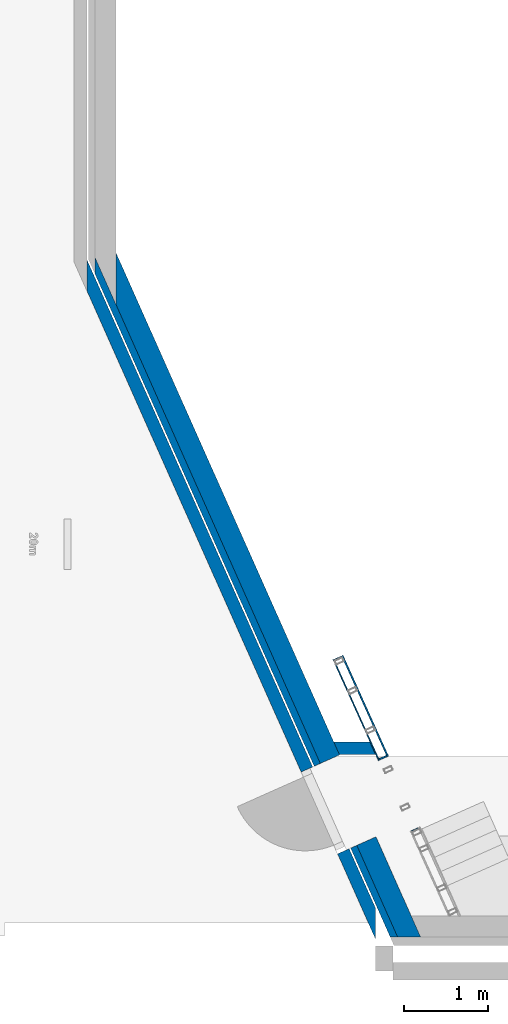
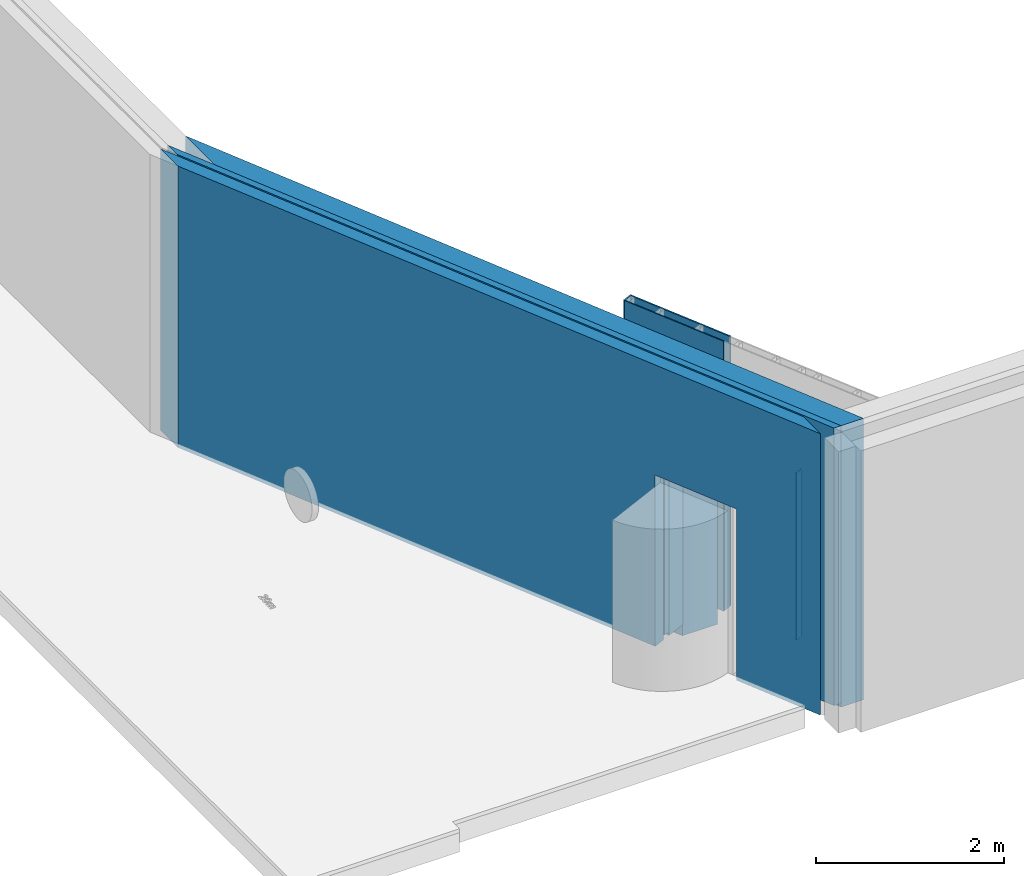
# One storey, part 6 of 16: 9 walls, 4 openings.
"""IFC2X3 building model written with IfcOpenShell, lengths in millimetres."""

import ifcopenshell
import ifcopenshell.guid

model = None  # the IFC model being written
_history = None  # IfcOwnerHistory: only IFC2X3 demands one
_inside = {}  # id of a spatial element -> (the spatial element, [elements in it])
_under = {}  # id of a project, library or spatial element -> (it, [spatial elements below it])
_declared = {}  # id of a project -> (the project, [libraries it declares])
_typed = {}  # id of a type object -> (the type object, [elements of that type])
_made_of = {}  # id of a material, layer set ... -> (it, [elements and type objects made of it])


def new_model(schema):
    """Start an empty IFC model of exactly this schema.

    Asked for "IFC4X3", IfcOpenShell would pick the latest addendum, in which some entities
    have other attributes; the version numbers below select the first issue.
    IFC2X3 requires an IfcOwnerHistory on every rooted entity: one is made here for all.
    """
    global model, _history
    if schema == "IFC4X3":
        model = ifcopenshell.file(schema_version=(4, 3, 0, 0))
    else:
        model = ifcopenshell.file(schema=schema)
    _inside.clear()
    _under.clear()
    _declared.clear()
    _typed.clear()
    _made_of.clear()
    _history = None
    if model.schema == "IFC2X3":
        org = make("IfcOrganization", Name="unknown")
        user = make(
            "IfcPersonAndOrganization",
            ThePerson=make("IfcPerson", FamilyName="unknown"),
            TheOrganization=org,
        )
        app = make(
            "IfcApplication",
            ApplicationDeveloper=org,
            Version="unknown",
            ApplicationFullName="unknown",
            ApplicationIdentifier="unknown",
        )
        _history = make(
            "IfcOwnerHistory",
            OwningUser=user,
            OwningApplication=app,
            ChangeAction="ADDED",
            CreationDate=0,
        )
    return model


def make(cls, **values):
    """One entity of the class cls with the attributes given. An attribute that is None is left unset."""
    return model.create_entity(
        cls, **{name: value for name, value in values.items() if value is not None}
    )


def entity(cls, *values):
    """Any entity or typed value of the class cls, its attributes in the order of the schema. None: left unset."""
    e = model.create_entity(cls)
    for i, value in enumerate(values):
        if value is not None:
            e[i] = value
    return e


def rooted(cls, **values):
    """An entity with a GlobalId (a new one), such as an element, a storey or a relation."""
    return make(cls, GlobalId=ifcopenshell.guid.new(), OwnerHistory=_history, **values)


def si_unit(unit_type, name, prefix=None):
    """IfcSIUnit, for example si_unit("LENGTHUNIT", "METRE", prefix="MILLI")."""
    return make("IfcSIUnit", UnitType=unit_type, Prefix=prefix, Name=name)


def converted_unit(unit_type, name, factor, base, dimensions=None, offset=None):
    """IfcConversionBasedUnit, such as the inch: factor (a typed value) times the base unit."""
    return make(
        "IfcConversionBasedUnit"
        if offset is None
        else "IfcConversionBasedUnitWithOffset",
        ConversionOffset=offset,
        Dimensions=None
        if dimensions is None
        else entity("IfcDimensionalExponents", *dimensions),
        UnitType=unit_type,
        Name=name,
        ConversionFactor=make(
            "IfcMeasureWithUnit", ValueComponent=factor, UnitComponent=base
        ),
    )


def derived_unit(unit_type, elements):
    """IfcDerivedUnit: a product of units, each with its exponent."""
    return make(
        "IfcDerivedUnit",
        Elements=[
            make("IfcDerivedUnitElement", Unit=unit, Exponent=power)
            for unit, power in elements
        ],
        UnitType=unit_type,
    )


def assignment(units):
    """IfcUnitAssignment: the units of a project."""
    return None if units is None else make("IfcUnitAssignment", Units=units)


def point(xyz):
    """IfcCartesianPoint."""
    return None if xyz is None else make("IfcCartesianPoint", Coordinates=xyz)


def direction(xyz):
    """IfcDirection."""
    return None if xyz is None else make("IfcDirection", DirectionRatios=xyz)


def frame(location, z_axis=None, x_axis=None):
    """IfcAxis2Placement3D, a coordinate frame: its origin and axes. An axis left out is left unset."""
    return make(
        "IfcAxis2Placement3D",
        Location=point(location),
        Axis=direction(z_axis),
        RefDirection=direction(x_axis),
    )


def frame_2d(location, x_axis=None):
    """IfcAxis2Placement2D, a coordinate frame in the plane: its origin and x axis."""
    return make(
        "IfcAxis2Placement2D", Location=point(location), RefDirection=direction(x_axis)
    )


def origin():
    """The frame at (0, 0, 0) with its axes left unset."""
    return frame((0.0, 0.0, 0.0))


def place(relative_to, where):
    """IfcLocalPlacement: puts the frame where relative to a parent placement (None: the world)."""
    return make(
        "IfcLocalPlacement", PlacementRelTo=relative_to, RelativePlacement=where
    )


def context(
    kind, dimensions, precision=None, world=None, true_north=None, identifier=None
):
    """IfcGeometricRepresentationContext, for example the 3D "Model" context."""
    return make(
        "IfcGeometricRepresentationContext",
        ContextIdentifier=identifier,
        ContextType=kind,
        CoordinateSpaceDimension=dimensions,
        Precision=precision,
        WorldCoordinateSystem=world,
        TrueNorth=true_north,
    )


def subcontext(parent, identifier, kind, view, scale=None):
    """IfcGeometricRepresentationSubContext, for example "Body" below "Model"."""
    return make(
        "IfcGeometricRepresentationSubContext",
        ContextIdentifier=identifier,
        ContextType=kind,
        ParentContext=parent,
        TargetScale=scale,
        TargetView=view,
    )


def project(units=None, contexts=None):
    """IfcProject with its units and contexts."""
    return rooted(
        "IfcProject",
        Name="project",
        RepresentationContexts=contexts,
        UnitsInContext=assignment(units),
    )


def spatial(cls, under=None, at=None, **own):
    """A site, building, storey or space (cls), placed at a placement, below another one or the project."""
    s = rooted(cls, ObjectPlacement=at, **own)
    if under is not None:
        _under.setdefault(under.id(), (under, []))[1].append(s)
    return s


def polyline(points):
    """IfcPolyline through the points."""
    return make("IfcPolyline", Points=[point(p) for p in points])


def profile(cls, at=None, kind="AREA", **sizes):
    """A parametric profile (cls). Its sizes go by their IFC names, for example OverallWidth=200.0."""
    return make(cls, ProfileType=kind, Position=at, **sizes)


def rectangle(**sizes):
    """IfcRectangleProfileDef."""
    return profile("IfcRectangleProfileDef", **sizes)


def outline(outer, holes=None, kind="AREA"):
    """IfcArbitraryClosedProfileDef: a profile drawn as a closed curve; with holes, ...WithVoids."""
    if holes is None:
        return make("IfcArbitraryClosedProfileDef", ProfileType=kind, OuterCurve=outer)
    return make(
        "IfcArbitraryProfileDefWithVoids",
        ProfileType=kind,
        OuterCurve=outer,
        InnerCurves=holes,
    )


def extrude(swept, where, along, depth):
    """IfcExtrudedAreaSolid: the profile swept, set in the frame where, extruded along a direction by depth."""
    return make(
        "IfcExtrudedAreaSolid",
        SweptArea=swept,
        Position=where,
        ExtrudedDirection=direction(along),
        Depth=depth,
    )


def clip(a, b, op="DIFFERENCE"):
    """IfcBooleanClippingResult: the solid a cut by the half space b."""
    return make(
        "IfcBooleanClippingResult", Operator=op, FirstOperand=a, SecondOperand=b
    )


def halfspace(plane, agree):
    """IfcHalfSpaceSolid: all space on one side of the plane z = 0 of the frame plane."""
    return make(
        "IfcHalfSpaceSolid",
        BaseSurface=make("IfcPlane", Position=plane),
        AgreementFlag=agree,
    )


def shape(context_of_items, identifier, shape_type, items):
    """IfcShapeRepresentation: the items that make up one representation, for example the "Body"."""
    return make(
        "IfcShapeRepresentation",
        ContextOfItems=context_of_items,
        RepresentationIdentifier=identifier,
        RepresentationType=shape_type,
        Items=items,
    )


def material(Name=None, Category=None):
    """IfcMaterial."""
    return make("IfcMaterial", Name=Name, Category=Category)


def layer(
    of_material, thickness, ventilated=None, Name=None, Category=None, Priority=None
):
    """IfcMaterialLayer: one layer of a wall or slab, of a material (None: an air gap)."""
    return make(
        "IfcMaterialLayer",
        Material=of_material,
        LayerThickness=thickness,
        IsVentilated=ventilated,
        Name=Name,
        Category=Category,
        Priority=Priority,
    )


def layer_set(layers, Name=None):
    """IfcMaterialLayerSet."""
    return make("IfcMaterialLayerSet", MaterialLayers=layers, LayerSetName=Name)


def layer_usage(for_layer_set, set_direction, sense, offset, extent=None):
    """IfcMaterialLayerSetUsage: how a layer set lies in its element."""
    return make(
        "IfcMaterialLayerSetUsage",
        ForLayerSet=for_layer_set,
        LayerSetDirection=set_direction,
        DirectionSense=sense,
        OffsetFromReferenceLine=offset,
        ReferenceExtent=extent,
    )


def made_of(thing, what):
    """Note that an element or type object is made of a material, layer set ...; save() writes the relation."""
    if what is not None:
        _made_of.setdefault(what.id(), (what, []))[1].append(thing)
    return thing


def type_object(cls, material=None, **own):
    """A type object (cls), such as IfcWallType, which elements share."""
    return made_of(rooted(cls, **own), material)


def element(
    cls,
    number,
    at=None,
    inside=None,
    cuts=None,
    type_object=None,
    material=None,
    context=None,
    identifier="Body",
    shape_type=None,
    held_by="IfcProductDefinitionShape",
    body=None,
    shapes=None,
    **own,
):
    """One element of the class cls, such as IfcWall. Its Tag is "e" and its number.

    at: its placement. inside: the storey or other place that contains it. cuts: it is an
    opening in that element (IfcRelVoidsElement). A single representation is given by context,
    identifier, shape_type and body (its items); several are given by shapes. held_by: the class
    of the entity that holds the representations. save() writes the other relations.
    """
    e = rooted(cls, Tag="e%d" % number, ObjectPlacement=at, **own)
    if body is not None:
        shapes = [shape(context, identifier, shape_type, body)]
    if shapes is not None:
        e.Representation = make(held_by, Representations=shapes)
    if inside is not None:
        _inside.setdefault(inside.id(), (inside, []))[1].append(e)
    if cuts is not None:
        rooted(
            "IfcRelVoidsElement", RelatingBuildingElement=cuts, RelatedOpeningElement=e
        )
    if type_object is not None:
        _typed.setdefault(type_object.id(), (type_object, []))[1].append(e)
    return made_of(e, material)


def aggregate(whole, parts):
    """IfcRelAggregates: a whole, such as a stair, and the parts it consists of."""
    return rooted("IfcRelAggregates", RelatingObject=whole, RelatedObjects=parts)


def save(model, path):
    """Write the relations noted so far, then the file.

    IfcRelAggregates (storeys below a building ...), IfcRelContainedInSpatialStructure (elements
    in a storey), IfcRelDefinesByType, IfcRelAssociatesMaterial and IfcRelDeclares: one each for
    every whole, place, type object, material and project.
    """
    for whole, parts in _under.values():
        aggregate(whole, parts)
    for where, things in _inside.values():
        rooted(
            "IfcRelContainedInSpatialStructure",
            RelatedElements=things,
            RelatingStructure=where,
        )
    for kind, things in _typed.values():
        rooted("IfcRelDefinesByType", RelatedObjects=things, RelatingType=kind)
    for what, things in _made_of.values():
        rooted("IfcRelAssociatesMaterial", RelatedObjects=things, RelatingMaterial=what)
    for by, libraries in _declared.values():
        rooted("IfcRelDeclares", RelatingContext=by, RelatedDefinitions=libraries)
    model.write(path)


model = new_model("IFC2X3")

# Units and contexts
model_context = context("Model", 3, precision=0.01, world=origin(), true_north=direction((6.123031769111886e-17, 1.0)))
body_context = subcontext(model_context, "Body", "Model", "MODEL_VIEW")
ifc_project = project(units=[si_unit("LENGTHUNIT", "METRE", prefix="MILLI"), si_unit("AREAUNIT", "SQUARE_METRE"), si_unit("VOLUMEUNIT", "CUBIC_METRE"), converted_unit("PLANEANGLEUNIT", "DEGREE", entity("IfcRatioMeasure", 0.017453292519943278), si_unit("PLANEANGLEUNIT", "RADIAN"), dimensions=[0, 0, 0, 0, 0, 0, 0]), si_unit("MASSUNIT", "GRAM", prefix="KILO"), derived_unit("MASSDENSITYUNIT", [(si_unit("MASSUNIT", "GRAM", prefix="KILO"), 1), (si_unit("LENGTHUNIT", "METRE"), -3)]), derived_unit("MOMENTOFINERTIAUNIT", [(si_unit("LENGTHUNIT", "METRE"), 4)]), si_unit("TIMEUNIT", "SECOND"), si_unit("FREQUENCYUNIT", "HERTZ"), si_unit("THERMODYNAMICTEMPERATUREUNIT", "DEGREE_CELSIUS"), derived_unit("THERMALTRANSMITTANCEUNIT", [(si_unit("MASSUNIT", "GRAM", prefix="KILO"), 1), (si_unit("THERMODYNAMICTEMPERATUREUNIT", "KELVIN"), -1), (si_unit("TIMEUNIT", "SECOND"), -3)]), derived_unit("VOLUMETRICFLOWRATEUNIT", [(si_unit("LENGTHUNIT", "METRE"), 3), (si_unit("TIMEUNIT", "SECOND"), -1)]), derived_unit("MASSFLOWRATEUNIT", [(si_unit("MASSUNIT", "GRAM", prefix="KILO"), 1), (si_unit("TIMEUNIT", "SECOND"), -1)]), derived_unit("ROTATIONALFREQUENCYUNIT", [(si_unit("TIMEUNIT", "SECOND"), -1)]), si_unit("ELECTRICCURRENTUNIT", "AMPERE"), si_unit("ELECTRICVOLTAGEUNIT", "VOLT"), si_unit("POWERUNIT", "WATT"), si_unit("FORCEUNIT", "NEWTON", prefix="KILO"), si_unit("ILLUMINANCEUNIT", "LUX"), si_unit("LUMINOUSFLUXUNIT", "LUMEN"), si_unit("LUMINOUSINTENSITYUNIT", "CANDELA"), derived_unit("USERDEFINED", [(si_unit("MASSUNIT", "GRAM", prefix="KILO"), -1), (si_unit("LENGTHUNIT", "METRE"), -2), (si_unit("TIMEUNIT", "SECOND"), 3), (si_unit("LUMINOUSFLUXUNIT", "LUMEN"), 1)]), derived_unit("SOUNDPOWERUNIT", [(si_unit("MASSUNIT", "GRAM", prefix="KILO"), 1), (si_unit("LENGTHUNIT", "METRE"), 2), (si_unit("TIMEUNIT", "SECOND"), -3)]), derived_unit("SOUNDPRESSUREUNIT", [(si_unit("MASSUNIT", "GRAM", prefix="KILO"), 1), (si_unit("LENGTHUNIT", "METRE"), -1), (si_unit("TIMEUNIT", "SECOND"), -2)]), derived_unit("LINEARVELOCITYUNIT", [(si_unit("LENGTHUNIT", "METRE"), 1), (si_unit("TIMEUNIT", "SECOND"), -1)]), si_unit("PRESSUREUNIT", "PASCAL"), derived_unit("USERDEFINED", [(si_unit("LENGTHUNIT", "METRE"), -2), (si_unit("MASSUNIT", "GRAM", prefix="KILO"), 1), (si_unit("TIMEUNIT", "SECOND"), -2)]), derived_unit("LINEARFORCEUNIT", [(si_unit("MASSUNIT", "GRAM", prefix="KILO"), 1), (si_unit("LENGTHUNIT", "METRE"), 1), (si_unit("TIMEUNIT", "SECOND"), -2), (si_unit("LENGTHUNIT", "METRE"), -1)]), derived_unit("PLANARFORCEUNIT", [(si_unit("MASSUNIT", "GRAM", prefix="KILO"), 1), (si_unit("LENGTHUNIT", "METRE"), 1), (si_unit("TIMEUNIT", "SECOND"), -2), (si_unit("LENGTHUNIT", "METRE"), -2)])], contexts=[model_context])

# Site, building, storey
site_placement = place(None, frame((-10000.0, -10000.0, 0.0)))
site = spatial("IfcSite", under=ifc_project, at=site_placement, Name="Default", CompositionType="ELEMENT")
building_placement = place(site_placement, origin())
building = spatial("IfcBuilding", under=site, at=building_placement, CompositionType="ELEMENT")
storey_placement = place(building_placement, frame((0.0, 0.0, 9000.0)))
storey = spatial("IfcBuildingStorey", under=building, at=storey_placement, Name="02 2e verdieping", CompositionType="ELEMENT", Elevation=9000.0)

# Wall, opening
ifc_material_1 = material(Name="NLRS_beton ihwg")
ifc_layer_1 = layer(ifc_material_1, 250.00000000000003)
ifc_layer_set_1 = layer_set([ifc_layer_1], Name="Basic Wall:NLRS_21_WA_beton 250mm_ags")
ifc_layer_usage_1 = layer_usage(ifc_layer_set_1, "AXIS2", "NEGATIVE", 125.00000000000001)
wall_type_1 = type_object("IfcWallType", Name="Basic Wall:NLRS_21_WA_beton 250mm_ags", PredefinedType="STANDARD", material=ifc_layer_set_1)
wall_1_placement = place(storey_placement, frame((25660.80681748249, 35955.53941240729, -50.0), z_axis=(0.0, 0.0, 1.0), x_axis=(0.40673664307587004, -0.9135454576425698, 0.0)))
wall_1 = element("IfcWallStandardCase", 1, at=wall_1_placement, inside=storey, type_object=wall_type_1, material=ifc_layer_usage_1, Name="Basic Wall:NLRS_21_WA_beton 250mm_ags", ObjectType="Basic Wall:NLRS_21_WA_beton 250mm_ags", context=body_context, shape_type="Clipping", body=[
    clip(extrude(outline(polyline([(561.5091934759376, -125.0), (8789.598005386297, -125.0), (8900.905176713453, 125.0), (8627.246107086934, 125.0), (0.0, 125.0), (561.5091934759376, -125.0)])), origin(), (0.0, 0.0, 1.0), 3649.9999999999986), halfspace(frame((0.0, 0.0, -50.0)), True)),
])
opening_1_placement = place(wall_1_placement, origin())
element("IfcOpeningElement", 2, at=opening_1_placement, cuts=wall_1, Name="Basic Wall:NLRS_21_WA_beton 250mm_ags", ObjectType="Opening", context=body_context, shape_type="SweptSolid", body=[
    extrude(rectangle(XDim=2220.0, YDim=1065.00000000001, at=frame_2d((-1.1368683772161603e-12, 3.922195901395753e-12), x_axis=(1.0, 0.0))), frame((7062.098005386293, -125.0, 1110.0), z_axis=(0.0, 1.0, 0.0), x_axis=(0.0, 0.0, -1.0)), (0.0, 0.0, 1.0), 250.00000000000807),
])

ifc_material_2 = material(Name="NLRS_kalkzandsteen")
ifc_layer_2 = layer(ifc_material_2, 150.0)
ifc_layer_set_2 = layer_set([ifc_layer_2], Name="Basic Wall:NLRS_22_WA_kalkzandsteen 150mm_ags")
ifc_layer_usage_2 = layer_usage(ifc_layer_set_2, "AXIS2", "NEGATIVE", 75.0)
wall_type_2 = type_object("IfcWallType", Name="Basic Wall:NLRS_22_WA_kalkzandsteen 150mm_ags", PredefinedType="STANDARD", material=ifc_layer_set_2)
wall_2_placement = place(storey_placement, frame((25356.48409036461, 35901.48144797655, -50.0), z_axis=(0.0, 0.0, 1.0), x_axis=(0.4067366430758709, -0.9135454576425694, 0.0)))
wall_2 = element("IfcWallStandardCase", 3, at=wall_2_placement, inside=storey, type_object=wall_type_2, material=ifc_layer_usage_2, Name="Basic Wall:NLRS_22_WA_kalkzandsteen 150mm_ags", ObjectType="Basic Wall:NLRS_22_WA_kalkzandsteen 150mm_ags", context=body_context, shape_type="Clipping", body=[
    clip(extrude(outline(polyline([(336.90551608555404, -75.0), (8777.458966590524, -75.0), (8440.55345050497, 75.0), (0.0, 75.0), (336.90551608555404, -75.0)])), origin(), (0.0, 0.0, 1.0), 3649.9999999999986), halfspace(frame((0.0, 0.0, -50.0)), True)),
])
opening_2_placement = place(wall_2_placement, origin())
element("IfcOpeningElement", 4, at=opening_2_placement, cuts=wall_2, Name="Basic Wall:NLRS_22_WA_kalkzandsteen 150mm_ags", ObjectType="Opening", context=body_context, shape_type="SweptSolid", body=[
    extrude(rectangle(XDim=2220.0, YDim=1065.0000000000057, at=frame_2d((-1.1368683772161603e-12, 1.9326762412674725e-12), x_axis=(1.0, 0.0))), frame((7136.492801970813, -75.0, 1110.0), z_axis=(0.0, 1.0, 0.0), x_axis=(0.0, 0.0, -1.0)), (0.0, 0.0, 1.0), 150.00000000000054),
])

# Walls
ifc_material_3 = material(Name="NLRS_multiplex")
ifc_layer_3 = layer(ifc_material_3, 18.0)
ifc_layer_set_3 = layer_set([ifc_layer_3], Name="Basic Wall:NLRS_42_WA_multiplex 18mm_ags")
ifc_layer_usage_3 = layer_usage(ifc_layer_set_3, "AXIS2", "NEGATIVE", 9.000000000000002)
wall_type_3 = type_object("IfcWallType", Name="Basic Wall:NLRS_42_WA_multiplex 18mm_ags", PredefinedType="STANDARD", material=ifc_layer_set_3)
wall_3_placement = place(storey_placement, frame((29374.378586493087, 29169.371758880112, 0.0), z_axis=(0.0, 0.0, 1.0), x_axis=(-0.9110882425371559, -0.41221137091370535, 0.0)))
element("IfcWallStandardCase", 5, at=wall_3_placement, inside=storey, type_object=wall_type_3, material=ifc_layer_usage_3, Name="Basic Wall:NLRS_42_WA_multiplex 18mm_ags", ObjectType="Basic Wall:NLRS_42_WA_multiplex 18mm_ags", context=body_context, shape_type="SweptSolid", body=[
    extrude(rectangle(XDim=92.7399031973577, YDim=18.00000000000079, at=frame_2d((46.36995159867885, -4.796163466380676e-14), x_axis=(-1.0, 0.0))), origin(), (0.0, 0.0, 1.0), 2170.0000000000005),
])
ifc_layer_usage_4 = layer_usage(ifc_layer_set_3, "AXIS2", "NEGATIVE", 9.000000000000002)
wall_4_placement = place(storey_placement, frame((28475.219589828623, 31216.800205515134, 0.0), z_axis=(0.0, 0.0, 1.0), x_axis=(-0.9110882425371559, -0.41221137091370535, 0.0)))
element("IfcWallStandardCase", 6, at=wall_4_placement, inside=storey, type_object=wall_type_3, material=ifc_layer_usage_4, Name="Basic Wall:NLRS_42_WA_multiplex 18mm_ags", ObjectType="Basic Wall:NLRS_42_WA_multiplex 18mm_ags", context=body_context, shape_type="Clipping", body=[
    clip(extrude(rectangle(XDim=130.50000000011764, YDim=17.999999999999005, at=frame_2d((65.25000000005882, 1.1617373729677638e-12), x_axis=(-1.0, 0.0))), origin(), (0.0, 0.0, 1.0), 3499.999999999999), halfspace(frame((0.0, 0.0, -4800.0)), True)),
])
ifc_layer_usage_5 = layer_usage(ifc_layer_set_3, "AXIS2", "NEGATIVE", 9.000000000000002)
wall_5_placement = place(storey_placement, frame((28470.72969798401, 31204.890508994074, 0.0), z_axis=(0.0, 0.0, 1.0), x_axis=(0.4122113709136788, -0.9110882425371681, 0.0)))
element("IfcWallStandardCase", 7, at=wall_5_placement, inside=storey, type_object=wall_type_3, material=ifc_layer_usage_5, Name="Basic Wall:NLRS_42_WA_multiplex 18mm_ags", ObjectType="Basic Wall:NLRS_42_WA_multiplex 18mm_ags", context=body_context, shape_type="Clipping", body=[
    clip(extrude(rectangle(XDim=1295.0342837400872, YDim=17.99999999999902, at=frame_2d((647.5171418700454, 4.0749625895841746e-12), x_axis=(-1.0, 0.0))), origin(), (0.0, 0.0, 1.0), 3499.999999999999), halfspace(frame((0.0, 0.0, -4800.0)), True)),
])
ifc_layer_usage_6 = layer_usage(ifc_layer_set_3, "AXIS2", "NEGATIVE", 9.000000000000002)
wall_6_placement = place(storey_placement, frame((28992.647858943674, 30029.489891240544, 0.0), z_axis=(0.0, 0.0, 1.0), x_axis=(-0.9110882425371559, -0.41221137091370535, 0.0)))
element("IfcWallStandardCase", 8, at=wall_6_placement, inside=storey, type_object=wall_type_3, material=ifc_layer_usage_6, Name="Basic Wall:NLRS_42_WA_multiplex 18mm_ags", ObjectType="Basic Wall:NLRS_42_WA_multiplex 18mm_ags", context=body_context, shape_type="SweptSolid", body=[
    extrude(rectangle(XDim=99.50000000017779, YDim=17.999999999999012, at=frame_2d((49.750000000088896, 5.417888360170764e-13), x_axis=(-1.0, 0.0))), origin(), (0.0, 0.0, 1.0), 2170.0000000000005),
])
ifc_layer_4 = layer(ifc_material_3, 13.000000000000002)
ifc_layer_set_4 = layer_set([ifc_layer_4], Name="Basic Wall:NLRS_42_WA_multiplex 13mm_ags")
ifc_layer_usage_7 = layer_usage(ifc_layer_set_4, "AXIS2", "NEGATIVE", 6.499999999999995)
wall_type_4 = type_object("IfcWallType", Name="Basic Wall:NLRS_42_WA_multiplex 13mm_ags", PredefinedType="STANDARD", material=ifc_layer_set_4)
wall_7_placement = place(storey_placement, frame((28365.95455009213, 31157.48620133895, 0.0), z_axis=(0.0, 0.0, 1.0), x_axis=(0.4122113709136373, -0.9110882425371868, 0.0)))
element("IfcWallStandardCase", 9, at=wall_7_placement, inside=storey, type_object=wall_type_4, material=ifc_layer_usage_7, Name="Basic Wall:NLRS_42_WA_multiplex 13mm_ags", ObjectType="Basic Wall:NLRS_42_WA_multiplex 13mm_ags", context=body_context, shape_type="Clipping", body=[
    clip(extrude(rectangle(XDim=1295.0342837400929, YDim=13.000000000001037, at=frame_2d((647.5171418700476, -3.205880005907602e-12), x_axis=(-1.0, 0.0))), origin(), (0.0, 0.0, 1.0), 3499.999999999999), halfspace(frame((0.0, 0.0, -4800.0)), True)),
])

# Wall, openings
ifc_material_4 = material(Name="NLRS_isolatie")
ifc_layer_5 = layer(ifc_material_4, 80.0)
ifc_layer_set_5 = layer_set([ifc_layer_5], Name="Basic Wall:NLRS_21_WA_isolatie 80mm_ags")
ifc_layer_usage_8 = layer_usage(ifc_layer_set_5, "AXIS2", "NEGATIVE", 40.0)
wall_type_5 = type_object("IfcWallType", Name="Basic Wall:NLRS_21_WA_isolatie 80mm_ags", PredefinedType="STANDARD", material=ifc_layer_set_5)
wall_8_placement = place(storey_placement, frame((29085.12340366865, 27858.73053397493, 0.0), z_axis=(0.0, 0.0, 1.0), x_axis=(-0.4067366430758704, 0.9135454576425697, 0.0)))
wall_8 = element("IfcWallStandardCase", 10, at=wall_8_placement, inside=storey, type_object=wall_type_5, material=ifc_layer_usage_8, Name="Basic Wall:NLRS_21_WA_isolatie 80mm_ags", ObjectType="Basic Wall:NLRS_21_WA_isolatie 80mm_ags", context=body_context, shape_type="Clipping", body=[
    clip(extrude(outline(polyline([(0.0, -40.0), (8842.737145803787, -40.0), (8663.054203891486, 40.0), (35.6182948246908, 40.0), (0.0, -40.0)])), origin(), (0.0, 0.0, 1.0), 3600.0000000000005), halfspace(frame((0.0, 0.0, -4800.0)), True)),
])
opening_3_placement = place(wall_8_placement, origin())
element("IfcOpeningElement", 11, at=opening_3_placement, cuts=wall_8, Name="Basic Wall:NLRS_21_WA_isolatie 80mm_ags", ObjectType="Opening", context=body_context, shape_type="SweptSolid", body=[
    extrude(rectangle(XDim=2220.0, YDim=1065.0000000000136, at=frame_2d((-1.1368683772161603e-12, 1.9895196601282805e-12), x_axis=(1.0, 0.0))), frame((1727.5000000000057, -40.0, 1060.0), z_axis=(0.0, 1.0, 0.0), x_axis=(0.0, 0.0, -1.0)), (0.0, 0.0, 1.0), 80.00000000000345),
])
opening_4_placement = place(wall_8_placement, origin())
element("IfcOpeningElement", 12, at=opening_4_placement, cuts=wall_8, Name="Basic Wall:NLRS_21_WA_isolatie 80mm_ags", ObjectType="Opening", context=body_context, shape_type="SweptSolid", body=[
    extrude(rectangle(XDim=2438.4, YDim=1.3816677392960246, at=frame_2d((0.0, 1.9784729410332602e-12), x_axis=(1.0, 0.0))), frame((1908.840532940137, -40.0, 2050.0), z_axis=(0.0, 1.0, 0.0), x_axis=(0.0, 0.0, -1.0)), (0.0, 0.0, 1.0), 79.99999999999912),
])

# Wall
ifc_material_5 = material(Name="NLRS_gipsplaat")
ifc_layer_6 = layer(ifc_material_5, 12.5)
ifc_layer_7 = layer(ifc_material_5, 12.5)
ifc_material_6 = material(Name="NLRS_aluminium C-profielen")
ifc_layer_8 = layer(ifc_material_6, 100.0)
ifc_layer_9 = layer(ifc_material_5, 12.5)
ifc_layer_10 = layer(ifc_material_5, 12.5)
ifc_layer_set_6 = layer_set([ifc_layer_6, ifc_layer_7, ifc_layer_8, ifc_layer_9, ifc_layer_10], Name="Basic Wall:NLRS_22_WA_ms-wand gips gips 150mm 25-100-25_ags")
ifc_layer_usage_9 = layer_usage(ifc_layer_set_6, "AXIS2", "POSITIVE", -75.0)
wall_type_6 = type_object("IfcWallType", Name="Basic Wall:NLRS_22_WA_ms-wand gips gips 150mm 25-100-25_ags", PredefinedType="STANDARD", material=ifc_layer_set_6)
wall_9_placement = place(storey_placement, frame((28361.058055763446, 30123.0, -200.0)))
element("IfcWallStandardCase", 13, at=wall_9_placement, inside=storey, type_object=wall_type_6, material=ifc_layer_usage_9, Name="Basic Wall:NLRS_22_WA_ms-wand gips gips 150mm 25-100-25_ags", ObjectType="Basic Wall:NLRS_22_WA_ms-wand gips gips 150mm 25-100-25_ags", context=body_context, shape_type="SweptSolid", body=[
    extrude(outline(polyline([(499.73640912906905, -75.0), (431.87063855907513, 75.0), (0.0, 75.0), (66.78430279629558, -75.0), (499.73640912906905, -75.0)])), origin(), (0.0, 0.0, 1.0), 3399.999999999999),
])

save(model, "model.ifc")
